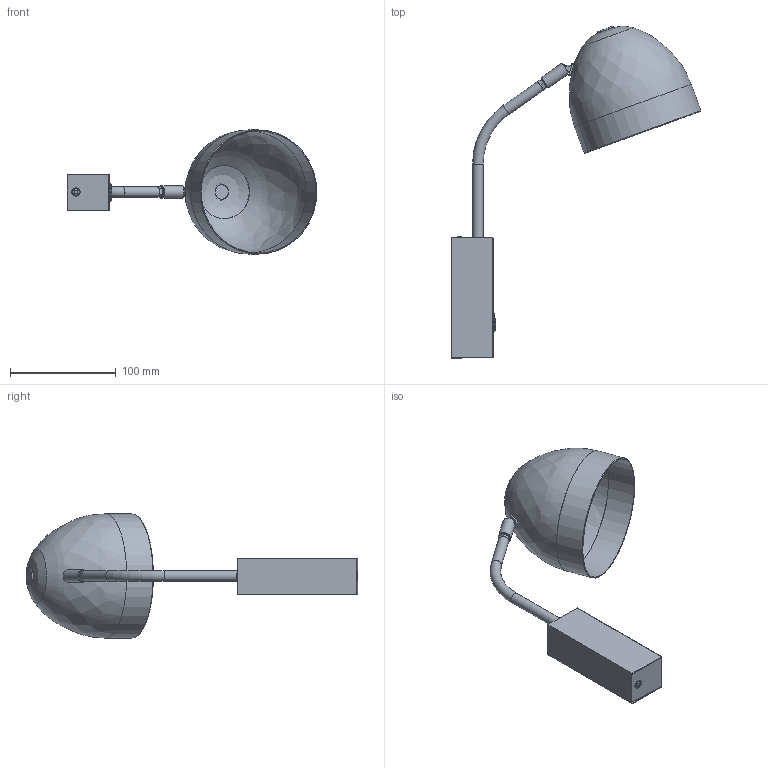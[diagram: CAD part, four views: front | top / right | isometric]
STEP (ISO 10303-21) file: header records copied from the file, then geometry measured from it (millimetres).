
FILE_DESCRIPTION(/* description */ (''),/* implementation_level */ '2;1');
FILE_NAME(/* name */ 'C:/Users/kubaw/OneDrive/Pulpit/Nowy folder/4167_SOHO v6/4167_SOHO v6.step',/* time_stamp */ '2021-03-13T10:08:06+01:00',/* author */ (''),/* organization */ (''),/* preprocessor_version */ 'ST-DEVELOPER v18.1',/* originating_system */ 'Autodesk Translation Framework v9.10.0.1330',/* authorisation */ '');
FILE_SCHEMA (('AUTOMOTIVE_DESIGN { 1 0 10303 214 3 1 1 }'));
Length unit declared in the file: millimetre
Products named in the file (2): 4167_SOHO; ŚRUBA LOGAN
Assembly tree (2 placements, depth 2):
  4167_SOHO
    ŚRUBA LOGAN  x2
Bounding box: 236.55 x 314.55 x 117.66 mm (x, y, z)
Volume: 210681.7 mm3; surface area: 99847.1 mm2
Topology: 16 solids, 16 shells, 131 faces, 270 edges, 168 vertices
Faces by surface type: plane 78, cylinder 27, bspline 15, sphere 5, torus 4, cone 2
Full cylindrical faces by diameter (mm): 8 x2, 10 x3, 12 x1, 15 x1, 15.2 x1, 16.654 x1, 17.2 x1, 115.663 x1, 117.663 x1
Entity records: 3212 total; most frequent: CARTESIAN_POINT 945, DIRECTION 467, ORIENTED_EDGE 424, EDGE_CURVE 212, AXIS2_PLACEMENT_3D 180, VERTEX_POINT 132, EDGE_LOOP 112, FACE_OUTER_BOUND 109
